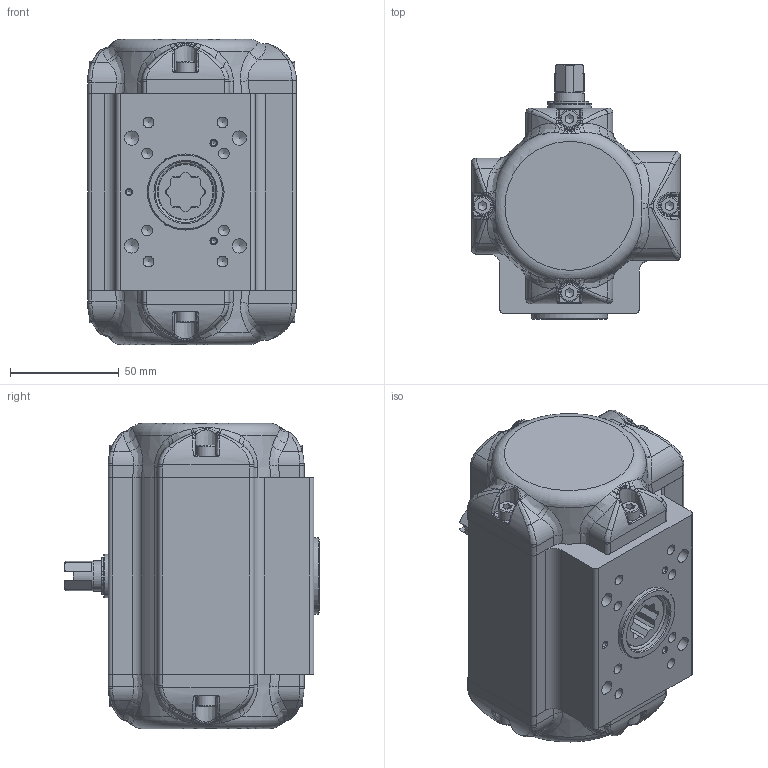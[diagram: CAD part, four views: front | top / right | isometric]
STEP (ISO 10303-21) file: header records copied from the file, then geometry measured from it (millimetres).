
FILE_DESCRIPTION((''),'2;1');
FILE_NAME('Z:\DOKUMENTATION ANTRIEBSPROGRAMM\Antriebe (neu)\BR16_SAD_SAF_90°\STEP-Dateien\10\SAD_10_BR16.stp','2017-06-27T08:03:21',('vmi'),(''),'Autodesk Inventor 2013','Autodesk Inventor 2013','');
FILE_SCHEMA(('AUTOMOTIVE_DESIGN { 1 0 10303 214 1 1 1 1 }'));
Length unit declared in the file: millimetre
Products named in the file (1): ENG-084094_Shrinkwrap_1
Bounding box: 96 x 117 x 140.3 mm (x, y, z)
Surface area: 80476 mm2 (no closed solid volume)
Topology: 0 solids, 28 shells, 642 faces, 1859 edges, 1196 vertices
Faces by surface type: bspline 240, plane 163, cylinder 152, cone 55, torus 32
Full cylindrical faces by diameter (mm): 1.7 x2, 2.5 x3, 4.134 x4, 4.2 x4, 4.917 x9, 5 x2, 6.647 x4, 8.5 x8, 11.445 x2, 13.1 x1, 13.5 x1, 13.8 x1, 20 x2, 28 x1, 35 x1
Entity records: 26675 total; most frequent: CARTESIAN_POINT 11351, ORIENTED_EDGE 3012, DIRECTION 2528, EDGE_CURVE 1714, VERTEX_POINT 1155, AXIS2_PLACEMENT_3D 1013, EDGE_LOOP 786, FACE_OUTER_BOUND 642
